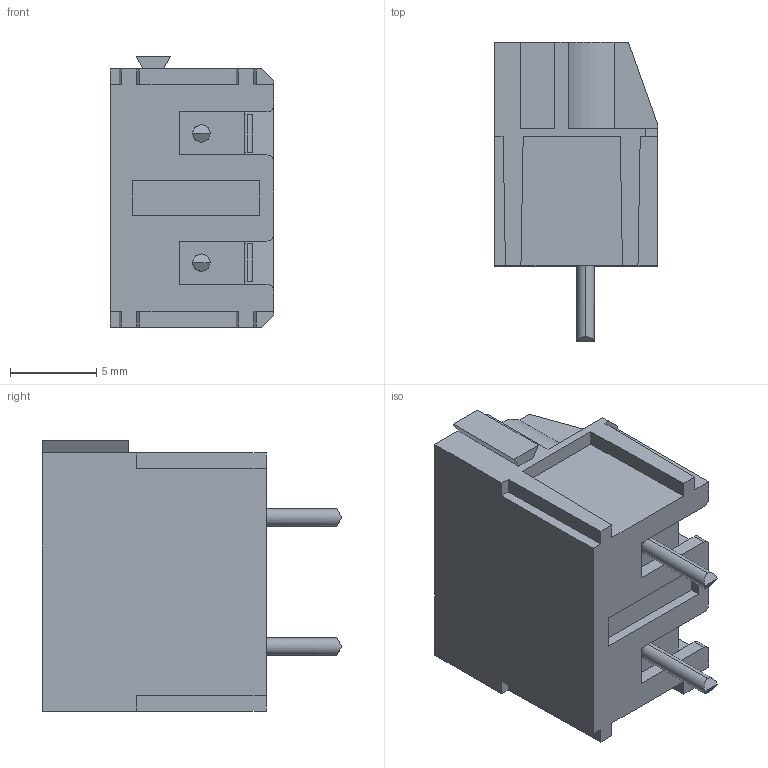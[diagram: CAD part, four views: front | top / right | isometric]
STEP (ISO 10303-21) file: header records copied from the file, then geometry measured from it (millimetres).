
FILE_DESCRIPTION (( 'STEP AP214' ), '1' );
FILE_NAME ('977-T-DS-02.STEP', '2007-09-18T01:58:46', ( ' ' ), ( '' ), 'SwSTEP 2.0', 'SolidWorks 2007', '' );
FILE_SCHEMA (( 'AUTOMOTIVE_DESIGN' ));
Length unit declared in the file: millimetre
Products named in the file (1): 977-T-DS-02
Bounding box: 9.5 x 17.4 x 15.7 mm (x, y, z)
Volume: 1030.6 mm3; surface area: 1724.4 mm2
Topology: 1 solids, 1 shells, 316 faces, 922 edges, 602 vertices
Faces by surface type: plane 268, cylinder 40, cone 8
Entity records: 13759 total; most frequent: CARTESIAN_POINT 1937, ORIENTED_EDGE 1828, DIRECTION 1620, EDGE_CURVE 914, VECTOR 770, LINE 770, VERTEX_POINT 598, AXIS2_PLACEMENT_3D 425
